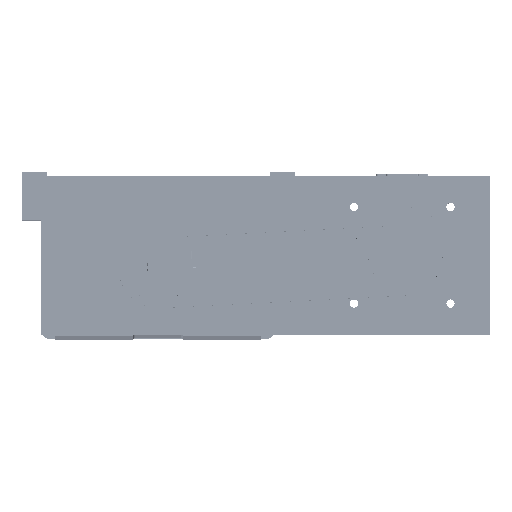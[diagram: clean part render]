
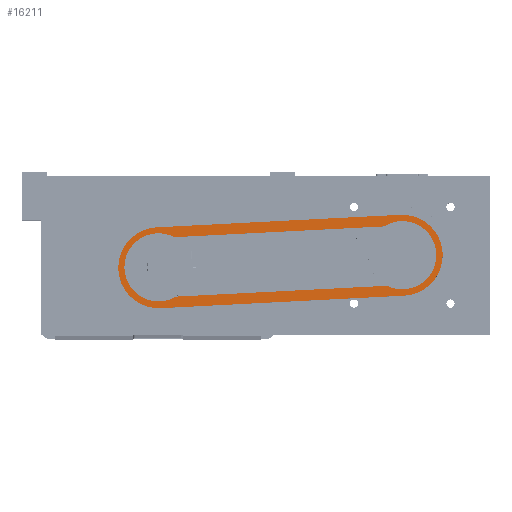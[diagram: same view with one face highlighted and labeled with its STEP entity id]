
A CAD part, top view. The second image highlights one B-rep face of the part: STEP entity #16211.
In plain terms, the highlighted planar face has unit normal (0, 0, 1).
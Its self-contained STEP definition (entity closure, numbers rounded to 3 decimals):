
#5455 = CARTESIAN_POINT ( 'NONE',  ( 0.408, -15.245, 20. ) ) ;
#8454 = CARTESIAN_POINT ( 'NONE',  ( -15.25, 0., 20. ) ) ;
#11829 = CIRCLE ( 'NONE', #104386, 20.75 ) ;
#12076 = CARTESIAN_POINT ( 'NONE',  ( 124.592, 18.591, 20. ) ) ;
#14234 = VECTOR ( 'NONE', #72343, 1000. ) ;
#15798 = CARTESIAN_POINT ( 'NONE',  ( 0.555, -20.743, 20. ) ) ;
#16211 = ADVANCED_FACE ( 'NONE', ( #76773, #72769 ), #78402, .T. ) ;
#20082 = AXIS2_PLACEMENT_3D ( 'NONE', #76649, #126944, #100065 ) ;
#20734 = DIRECTION ( 'NONE',  ( -1., -0.027, 0. ) ) ;
#21545 = VERTEX_POINT ( 'NONE', #117279 ) ;
#22968 = ORIENTED_EDGE ( 'NONE', *, *, #43982, .F. ) ;
#23454 = DIRECTION ( 'NONE',  ( 1., 0.027, 0. ) ) ;
#24042 = ORIENTED_EDGE ( 'NONE', *, *, #115889, .F. ) ;
#27922 = ORIENTED_EDGE ( 'NONE', *, *, #65735, .T. ) ;
#35035 = LINE ( 'NONE', #86589, #51070 ) ;
#40543 = VERTEX_POINT ( 'NONE', #5455 ) ;
#41025 = CIRCLE ( 'NONE', #142014, 20.75 ) ;
#41280 = DIRECTION ( 'NONE',  ( -1., -0.027, 0. ) ) ;
#42600 = EDGE_LOOP ( 'NONE', ( #94487, #24042, #22968, #162284, #94845 ) ) ;
#43901 = ORIENTED_EDGE ( 'NONE', *, *, #129661, .T. ) ;
#43982 = EDGE_CURVE ( 'NONE', #21545, #95701, #47230, .T. ) ;
#44008 = DIRECTION ( 'NONE',  ( 1., 0., 0. ) ) ;
#44689 = EDGE_CURVE ( 'NONE', #85086, #151992, #72085, .T. ) ;
#45091 = DIRECTION ( 'NONE',  ( 0., 0., 1. ) ) ;
#47122 = CARTESIAN_POINT ( 'NONE',  ( 0.555, -20.743, 20. ) ) ;
#47230 = CIRCLE ( 'NONE', #79056, 15.25 ) ;
#51070 = VECTOR ( 'NONE', #20734, 1000. ) ;
#55246 = CARTESIAN_POINT ( 'NONE',  ( 0., 0., 20. ) ) ;
#55789 = DIRECTION ( 'NONE',  ( 0., 0., 1. ) ) ;
#61595 = EDGE_CURVE ( 'NONE', #124079, #87467, #107563, .T. ) ;
#64999 = DIRECTION ( 'NONE',  ( 0., 0., 1. ) ) ;
#65735 = EDGE_CURVE ( 'NONE', #151992, #76501, #115185, .T. ) ;
#67140 = CARTESIAN_POINT ( 'NONE',  ( 125.408, -11.899, 20. ) ) ;
#70293 = CARTESIAN_POINT ( 'NONE',  ( 0., 0., 20. ) ) ;
#71221 = DIRECTION ( 'NONE',  ( 0., 0., 1. ) ) ;
#72085 = LINE ( 'NONE', #47122, #14234 ) ;
#72343 = DIRECTION ( 'NONE',  ( 1., 0.027, 0. ) ) ;
#72769 = FACE_BOUND ( 'NONE', #42600, .T. ) ;
#75878 = DIRECTION ( 'NONE',  ( 0., 0., 1. ) ) ;
#76501 = VERTEX_POINT ( 'NONE', #99295 ) ;
#76649 = CARTESIAN_POINT ( 'NONE',  ( 0., 0., 20. ) ) ;
#76773 = FACE_OUTER_BOUND ( 'NONE', #79582, .T. ) ;
#78402 = PLANE ( 'NONE',  #100167 ) ;
#79056 = AXIS2_PLACEMENT_3D ( 'NONE', #55246, #55789, #95410 ) ;
#79582 = EDGE_LOOP ( 'NONE', ( #94493, #152595, #113339, #27922, #43901 ) ) ;
#85086 = VERTEX_POINT ( 'NONE', #15798 ) ;
#85305 = EDGE_CURVE ( 'NONE', #87467, #21545, #35035, .T. ) ;
#86589 = CARTESIAN_POINT ( 'NONE',  ( -0.408, 15.245, 20. ) ) ;
#87467 = VERTEX_POINT ( 'NONE', #12076 ) ;
#88691 = DIRECTION ( 'NONE',  ( 1., 0., 0. ) ) ;
#89964 = EDGE_CURVE ( 'NONE', #40543, #124079, #140214, .T. ) ;
#91176 = DIRECTION ( 'NONE',  ( 1., 0., 0. ) ) ;
#94487 = ORIENTED_EDGE ( 'NONE', *, *, #89964, .F. ) ;
#94493 = ORIENTED_EDGE ( 'NONE', *, *, #152845, .T. ) ;
#94845 = ORIENTED_EDGE ( 'NONE', *, *, #61595, .F. ) ;
#95410 = DIRECTION ( 'NONE',  ( 1., 0., 0. ) ) ;
#95701 = VERTEX_POINT ( 'NONE', #8454 ) ;
#98189 = VECTOR ( 'NONE', #23454, 1000. ) ;
#98618 = AXIS2_PLACEMENT_3D ( 'NONE', #147695, #71221, #159355 ) ;
#98672 = VECTOR ( 'NONE', #41280, 1000. ) ;
#99295 = CARTESIAN_POINT ( 'NONE',  ( 124.445, 24.089, 20. ) ) ;
#100065 = DIRECTION ( 'NONE',  ( 1., 0., 0. ) ) ;
#100167 = AXIS2_PLACEMENT_3D ( 'NONE', #153205, #64999, #91176 ) ;
#101626 = CARTESIAN_POINT ( 'NONE',  ( -0.555, 20.743, 20. ) ) ;
#103308 = DIRECTION ( 'NONE',  ( 0., 0., 1. ) ) ;
#104386 = AXIS2_PLACEMENT_3D ( 'NONE', #70293, #45091, #44008 ) ;
#105530 = VERTEX_POINT ( 'NONE', #101626 ) ;
#107563 = CIRCLE ( 'NONE', #98618, 15.25 ) ;
#113339 = ORIENTED_EDGE ( 'NONE', *, *, #44689, .T. ) ;
#115185 = CIRCLE ( 'NONE', #161227, 20.75 ) ;
#115889 = EDGE_CURVE ( 'NONE', #95701, #40543, #124138, .T. ) ;
#117279 = CARTESIAN_POINT ( 'NONE',  ( -0.408, 15.245, 20. ) ) ;
#118404 = DIRECTION ( 'NONE',  ( 1., 0., 0. ) ) ;
#122759 = CARTESIAN_POINT ( 'NONE',  ( -20.75, 0., 20. ) ) ;
#124079 = VERTEX_POINT ( 'NONE', #67140 ) ;
#124138 = CIRCLE ( 'NONE', #20082, 15.25 ) ;
#126944 = DIRECTION ( 'NONE',  ( 0., 0., 1. ) ) ;
#129112 = CARTESIAN_POINT ( 'NONE',  ( 0., 0., 20. ) ) ;
#129661 = EDGE_CURVE ( 'NONE', #76501, #105530, #162584, .T. ) ;
#132205 = EDGE_CURVE ( 'NONE', #149688, #85086, #11829, .T. ) ;
#137313 = CARTESIAN_POINT ( 'NONE',  ( 125.555, -17.397, 20. ) ) ;
#139541 = CARTESIAN_POINT ( 'NONE',  ( 125., 3.346, 20. ) ) ;
#140214 = LINE ( 'NONE', #150778, #98189 ) ;
#142014 = AXIS2_PLACEMENT_3D ( 'NONE', #129112, #103308, #118404 ) ;
#147695 = CARTESIAN_POINT ( 'NONE',  ( 125., 3.346, 20. ) ) ;
#149688 = VERTEX_POINT ( 'NONE', #122759 ) ;
#150778 = CARTESIAN_POINT ( 'NONE',  ( 0.408, -15.245, 20. ) ) ;
#151992 = VERTEX_POINT ( 'NONE', #137313 ) ;
#152595 = ORIENTED_EDGE ( 'NONE', *, *, #132205, .T. ) ;
#152845 = EDGE_CURVE ( 'NONE', #105530, #149688, #41025, .T. ) ;
#153205 = CARTESIAN_POINT ( 'NONE',  ( 0., 0., 20. ) ) ;
#155773 = CARTESIAN_POINT ( 'NONE',  ( -0.555, 20.743, 20. ) ) ;
#159355 = DIRECTION ( 'NONE',  ( 1., 0., 0. ) ) ;
#161227 = AXIS2_PLACEMENT_3D ( 'NONE', #139541, #75878, #88691 ) ;
#162284 = ORIENTED_EDGE ( 'NONE', *, *, #85305, .F. ) ;
#162584 = LINE ( 'NONE', #155773, #98672 ) ;
